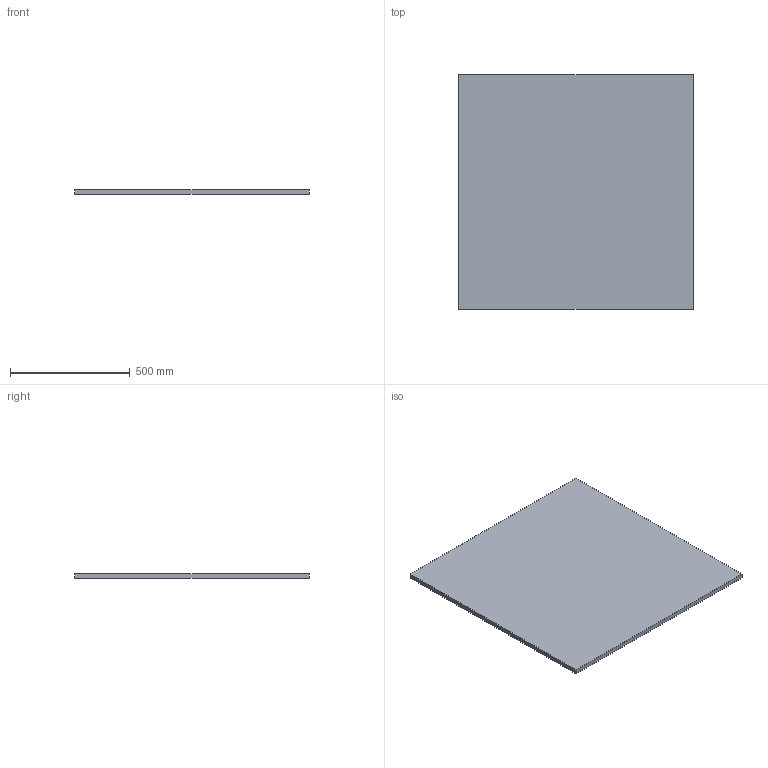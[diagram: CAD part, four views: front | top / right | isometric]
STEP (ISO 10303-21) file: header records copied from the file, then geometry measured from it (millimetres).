
FILE_DESCRIPTION(('CATIA V5 STEP Exchange'),'2;1');
FILE_NAME('C:\Users\andres.garcia\OneDrive - IQS\ASIGNATURAS\DAO\EXF\EXF-22223c\2inicio\Ej09-GARCIA_Andres.stp','2023-02-26T13:39:13+00:00',('none'),('none'),'CATIA Version 5-6 Release 2013 SP6','CATIA V5 STEP AP203','none');
FILE_SCHEMA(('CONFIG_CONTROL_DESIGN'));
Length unit declared in the file: millimetre
Products named in the file (1): Ej09-GARCIA_Andres
Bounding box: 980 x 980 x 20 mm (x, y, z)
Volume: 19208000 mm3; surface area: 1999200 mm2
Topology: 1 solids, 1 shells, 6 faces, 12 edges, 8 vertices
Faces by surface type: plane 6
Entity records: 197 total; most frequent: CARTESIAN_POINT 27, DIRECTION 24, ORIENTED_EDGE 24, VECTOR 12, EDGE_CURVE 12, LINE 12, VERTEX_POINT 8, AXIS2_PLACEMENT_3D 7
